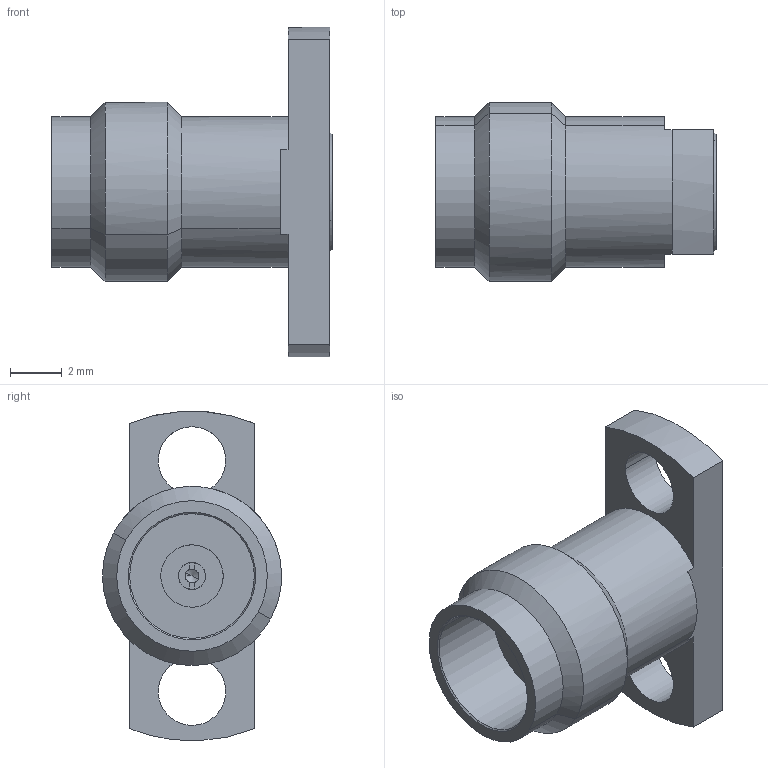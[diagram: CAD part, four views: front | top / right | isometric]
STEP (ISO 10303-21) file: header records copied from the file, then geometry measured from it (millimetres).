
FILE_DESCRIPTION(('CATIA V5 STEP Exchange'),'2;1');
FILE_NAME('F:\Work SZ\CMP 图纸\Precision Coaxial Connector\2.4mm\97-02-9E5-005\97-02-9E5-005(REV.A).stp','2013-08-08T09:45:08+00:00',('none'),('none'),'CATIA Version 5 Release 17 (IN-10)','CATIA V5 STEP AP203','none');
FILE_SCHEMA(('CONFIG_CONTROL_DESIGN'));
Length unit declared in the file: millimetre
Products named in the file (1): 97-02-9E5-005
Bounding box: 10.8 x 6.9 x 12.69 mm (x, y, z)
Volume: 279.8 mm3; surface area: 472.9 mm2
Topology: 1 solids, 1 shells, 66 faces, 166 edges, 104 vertices
Faces by surface type: plane 28, cylinder 26, cone 12
Entity records: 2302 total; most frequent: CARTESIAN_POINT 831, ORIENTED_EDGE 324, DIRECTION 226, EDGE_CURVE 162, VERTEX_POINT 104, AXIS2_PLACEMENT_3D 90, VECTOR 84, LINE 84
